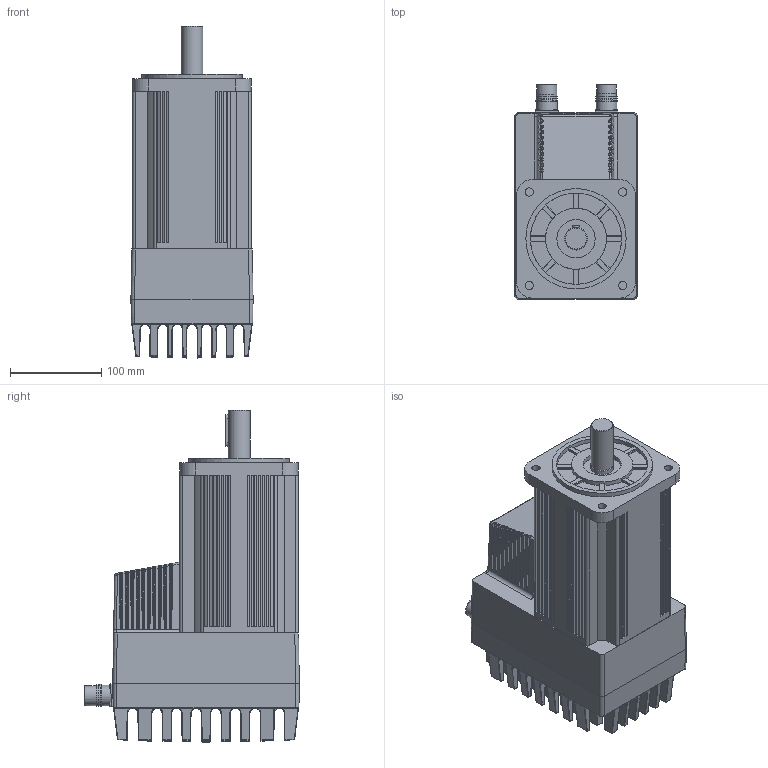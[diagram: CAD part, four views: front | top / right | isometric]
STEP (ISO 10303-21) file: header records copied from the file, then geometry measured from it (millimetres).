
FILE_DESCRIPTION( ( 'Unknown' ), '1' );
FILE_NAME( 'K:/JVL/MACxxx/BMAC/MAC1500_3000/CAD internet tegninger/STEP/Step/MAC1500-D5 V1_3.stp', 'Unknown', ( 'Unknown' ), ( 'Unknown' ), 'PSStep 11.0', 'Unknown', ' ' );
FILE_SCHEMA( ( 'AUTOMOTIVE_DESIGN { 1 0 10303 214 1 1 1 1 }' ) );
Length unit declared in the file: millimetre
Products named in the file (1): MSE1K5-00002B MAC1500D5MOTOR
Bounding box: 133.88 x 235.28 x 363.88 mm (x, y, z)
Volume: 5247355.4 mm3; surface area: 494085.6 mm2
Topology: 1 solids, 14 shells, 2424 faces, 5798 edges, 3498 vertices
Faces by surface type: cylinder 929, plane 919, bspline 280, sphere 271, torus 16, cone 9
Full cylindrical faces by diameter (mm): 2 x9, 2.013 x10, 2.459 x6, 3.242 x5, 4.3 x4, 4.5 x8, 4.6 x2, 8 x1, 9 x4, 16 x1, 18 x1, 19.8 x1, 20 x5, 21.6 x2, 22.6 x2, 22.9 x2, 23.3 x2, 24 x1, 24.5 x2, 25 x1, 35 x1, 42 x1, 57.62 x1, 67 x1, 75 x1, 100 x1, 110 x1
Entity records: 106149 total; most frequent: CARTESIAN_POINT 28345, DIRECTION 11646, ORIENTED_EDGE 11274, EDGE_CURVE 5637, AXIS2_PLACEMENT_3D 4353, VERTEX_POINT 3447, PRESENTATION_STYLE_ASSIGNMENT 3178, COLOUR_RGB 3178
